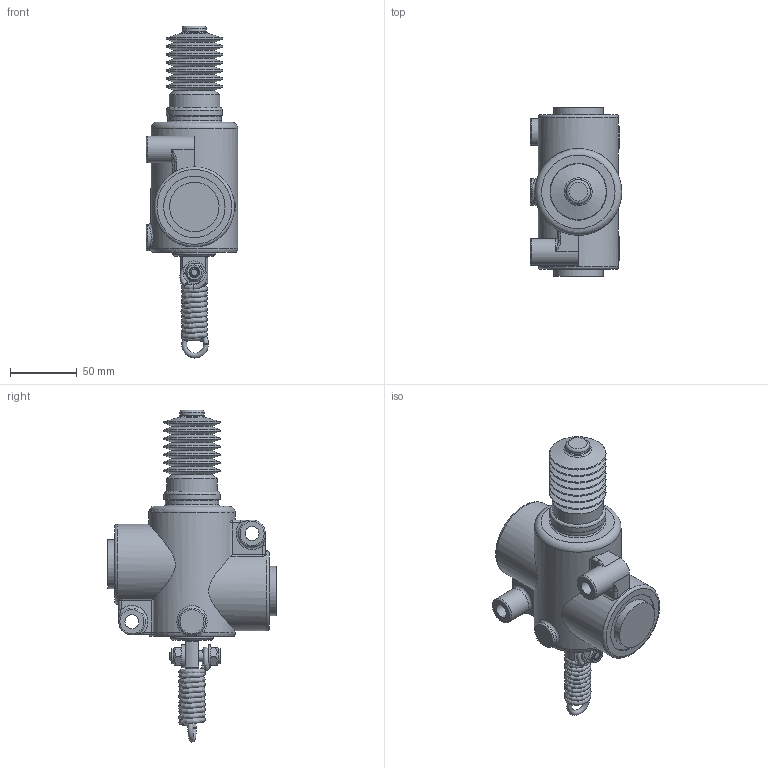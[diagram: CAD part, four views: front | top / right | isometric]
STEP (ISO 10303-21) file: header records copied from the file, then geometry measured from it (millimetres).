
FILE_DESCRIPTION((''),'2;1');
FILE_NAME('G:\HV_HYDRAULIC\AZIENDA_HV_HYDRAULIC\ARCHIVIO_DISEGNI\5_PRODOTTI_FINITI\3_VALVOLE\6200_VFC\6200.0017_VFC_1_G_nc_(HV)\6200.0017.stp','2024-09-27T13:40:11',('christian.scardovi'),(''),'Autodesk Inventor 2013','Autodesk Inventor 2013','');
FILE_SCHEMA(('AUTOMOTIVE_DESIGN { 1 0 10303 214 1 1 1 1 }'));
Length unit declared in the file: millimetre
Products named in the file (1): 6200.0017
Bounding box: 68.5 x 126 x 248.67 mm (x, y, z)
Volume: 614758.3 mm3; surface area: 70937.2 mm2
Topology: 1 solids, 1 shells, 217 faces, 525 edges, 324 vertices
Faces by surface type: plane 84, cone 39, cylinder 38, torus 36, bspline 20
Full cylindrical faces by diameter (mm): 3.7 x1, 6.647 x1, 8 x1, 8.5 x1, 10.5 x2, 11.05 x2, 17 x2, 18 x1, 20 x3, 32 x1, 37 x2, 38.004 x1, 40 x1, 42 x1, 46 x2, 60 x2, 65 x1
Entity records: 8246 total; most frequent: CARTESIAN_POINT 3631, DIRECTION 870, ORIENTED_EDGE 814, EDGE_CURVE 407, AXIS2_PLACEMENT_3D 366, EDGE_LOOP 322, VERTEX_POINT 295, STYLED_ITEM 215
